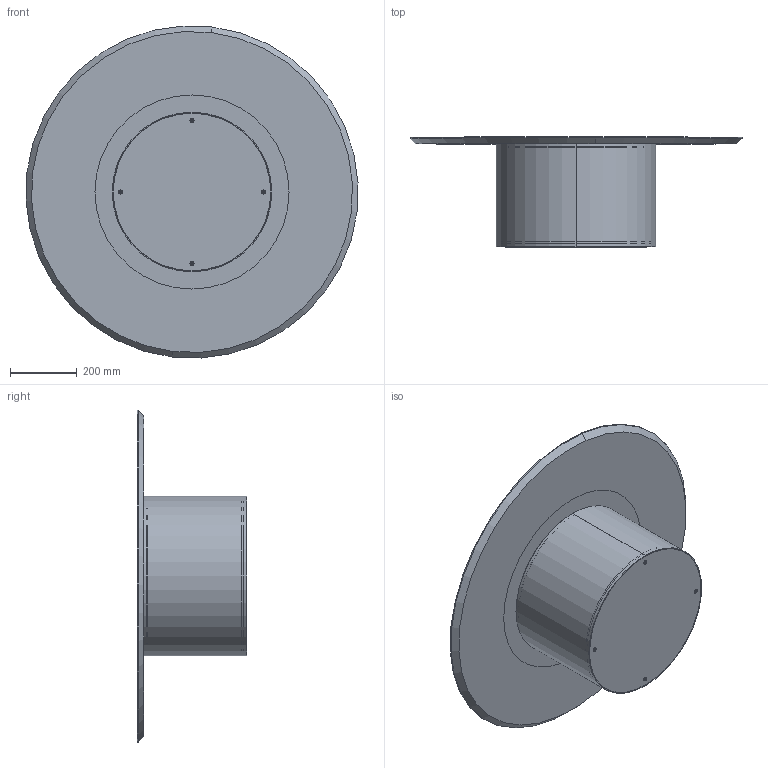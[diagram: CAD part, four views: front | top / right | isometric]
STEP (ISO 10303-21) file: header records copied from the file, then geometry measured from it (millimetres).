
FILE_DESCRIPTION (( 'STEP AP203' ), '1' );
FILE_NAME ('CL03W.STEP', '2024-08-06T10:14:14', ( '' ), ( '' ), 'SwSTEP 2.0', 'SolidWorks 2022', '' );
FILE_SCHEMA (( 'CONFIG_CONTROL_DESIGN' ));
Length unit declared in the file: millimetre
Products named in the file (11): K1XCMXX-00-Piani Rotondi in ceramica_D.600; KXXCXX-00-Piani Rotondi in ceramica CON PIASTRA_K01P PIANO CERAMICA D.60cm; CLB1000000_03-00-Zavorra cilindro low D.48cm; CLB1000000_01-00-Supporto piano fusto D.48cm; W1XCMXX-00-Piani Rotondi legno_D.1000 SP.20cm; M6xXXmm_HEX_M6x20mm HEX; P0000006-00-PIASTRA D.150mm X PIANI CER_CRI_MARMO_PIASTRA; CL03W; CLB1000000_04-00-Supporto Zavorra fusto D.48cm; CLB1000000-00-CILINDRO LOW D.48cm BASE GREZZA; CLB1000000_02-00-Fusto centrale d.48cm
Assembly tree (13 placements, depth 3):
  CL03W
    CLB1000000-00-CILINDRO LOW D.48cm BASE GREZZA
      CLB1000000_02-00-Fusto centrale d.48cm
      CLB1000000_03-00-Zavorra cilindro low D.48cm
      CLB1000000_01-00-Supporto piano fusto D.48cm
      CLB1000000_04-00-Supporto Zavorra fusto D.48cm
      M6xXXmm_HEX_M6x20mm HEX  x4
    W1XCMXX-00-Piani Rotondi legno_D.1000 SP.20cm
    KXXCXX-00-Piani Rotondi in ceramica CON PIASTRA_K01P PIANO CERAMICA D.60cm
      K1XCMXX-00-Piani Rotondi in ceramica_D.600
      P0000006-00-PIASTRA D.150mm X PIANI CER_CRI_MARMO_PIASTRA
Bounding box: 998.51 x 330 x 998.51 mm (x, y, z)
Volume: 23045791.6 mm3; surface area: 4380510.8 mm2
Topology: 14 solids, 14 shells, 259 faces, 559 edges, 320 vertices
Faces by surface type: plane 114, cylinder 85, cone 50, torus 8, bspline 2
Entity records: 5996 total; most frequent: CARTESIAN_POINT 1115, DIRECTION 835, ORIENTED_EDGE 690, EDGE_CURVE 345, AXIS2_PLACEMENT_3D 341, VERTEX_POINT 215, EDGE_LOOP 196, CIRCLE 168
